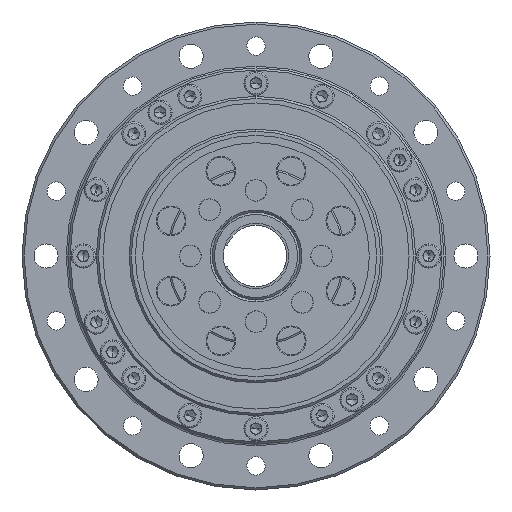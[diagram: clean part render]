
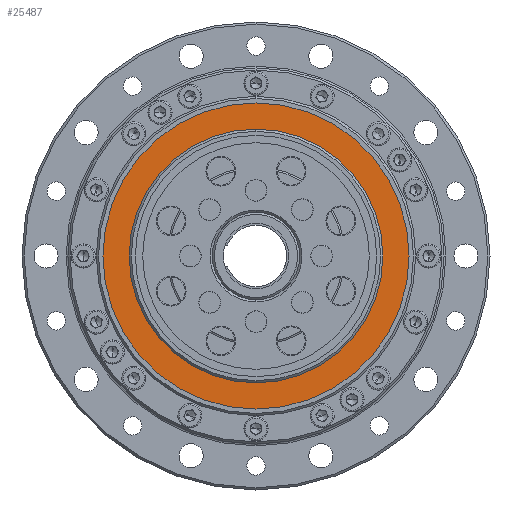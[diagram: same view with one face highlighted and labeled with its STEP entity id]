
A CAD part, left-side view. The second image highlights one B-rep face of the part: STEP entity #25487.
In plain terms, the highlighted planar face has unit normal (-1, 0, 0).
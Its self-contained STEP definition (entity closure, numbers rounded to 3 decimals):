
#423 = DIRECTION ( 'NONE',  ( -1., 0., 0. ) ) ;
#5018 = DIRECTION ( 'NONE',  ( -1., 0., 0. ) ) ;
#5162 = CARTESIAN_POINT ( 'NONE',  ( 3.002, 0., -29. ) ) ;
#5501 = VERTEX_POINT ( 'NONE', #15993 ) ;
#5592 = DIRECTION ( 'NONE',  ( 1., 0., 0. ) ) ;
#5758 = CARTESIAN_POINT ( 'NONE',  ( 3.002, 0., 0. ) ) ;
#6249 = ORIENTED_EDGE ( 'NONE', *, *, #20520, .F. ) ;
#6340 = EDGE_CURVE ( 'NONE', #5501, #6992, #19490, .T. ) ;
#6436 = EDGE_LOOP ( 'NONE', ( #25118, #8333 ) ) ;
#6992 = VERTEX_POINT ( 'NONE', #13313 ) ;
#7829 = DIRECTION ( 'NONE',  ( 0., 0., 1. ) ) ;
#8333 = ORIENTED_EDGE ( 'NONE', *, *, #14159, .T. ) ;
#8730 = DIRECTION ( 'NONE',  ( -1., 0., 0. ) ) ;
#11863 = VERTEX_POINT ( 'NONE', #5162 ) ;
#12678 = CARTESIAN_POINT ( 'NONE',  ( 3.002, 0., 0. ) ) ;
#12855 = VERTEX_POINT ( 'NONE', #24875 ) ;
#13313 = CARTESIAN_POINT ( 'NONE',  ( 3.002, 0., -35. ) ) ;
#13945 = AXIS2_PLACEMENT_3D ( 'NONE', #12678, #423, #14729 ) ;
#14159 = EDGE_CURVE ( 'NONE', #6992, #5501, #24848, .T. ) ;
#14362 = CIRCLE ( 'NONE', #13945, 29. ) ;
#14532 = EDGE_CURVE ( 'NONE', #11863, #12855, #23889, .T. ) ;
#14729 = DIRECTION ( 'NONE',  ( 0., 0., 1. ) ) ;
#15993 = CARTESIAN_POINT ( 'NONE',  ( 3.002, 0., 35. ) ) ;
#16350 = AXIS2_PLACEMENT_3D ( 'NONE', #20967, #8730, #23004 ) ;
#16381 = FACE_BOUND ( 'NONE', #16943, .T. ) ;
#16943 = EDGE_LOOP ( 'NONE', ( #6249, #21363 ) ) ;
#17272 = CARTESIAN_POINT ( 'NONE',  ( 3.002, 0., 0. ) ) ;
#17843 = PLANE ( 'NONE',  #19301 ) ;
#19301 = AXIS2_PLACEMENT_3D ( 'NONE', #21790, #5592, #19898 ) ;
#19332 = DIRECTION ( 'NONE',  ( 0., 0., 1. ) ) ;
#19490 = CIRCLE ( 'NONE', #22674, 35. ) ;
#19898 = DIRECTION ( 'NONE',  ( 0., 0., -1. ) ) ;
#20063 = DIRECTION ( 'NONE',  ( -1., 0., 0. ) ) ;
#20520 = EDGE_CURVE ( 'NONE', #12855, #11863, #14362, .T. ) ;
#20967 = CARTESIAN_POINT ( 'NONE',  ( 3.002, 0., 0. ) ) ;
#21363 = ORIENTED_EDGE ( 'NONE', *, *, #14532, .F. ) ;
#21790 = CARTESIAN_POINT ( 'NONE',  ( 3.002, 35., 0. ) ) ;
#22674 = AXIS2_PLACEMENT_3D ( 'NONE', #17272, #5018, #19332 ) ;
#23004 = DIRECTION ( 'NONE',  ( 0., 0., 1. ) ) ;
#23889 = CIRCLE ( 'NONE', #24072, 29. ) ;
#24072 = AXIS2_PLACEMENT_3D ( 'NONE', #5758, #20063, #7829 ) ;
#24848 = CIRCLE ( 'NONE', #16350, 35. ) ;
#24875 = CARTESIAN_POINT ( 'NONE',  ( 3.002, 0., 29. ) ) ;
#25118 = ORIENTED_EDGE ( 'NONE', *, *, #6340, .T. ) ;
#25487 = ADVANCED_FACE ( 'NONE', ( #16381, #25991 ), #17843, .F. ) ;
#25991 = FACE_OUTER_BOUND ( 'NONE', #6436, .T. ) ;
